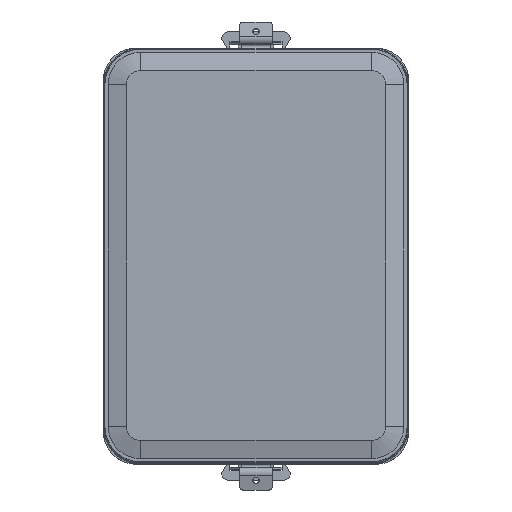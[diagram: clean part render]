
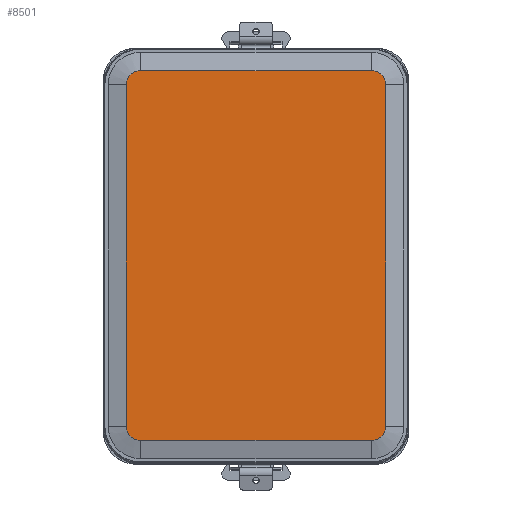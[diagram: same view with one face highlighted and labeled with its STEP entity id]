
A CAD part, top view. The second image highlights one B-rep face of the part: STEP entity #8501.
In plain terms, the highlighted planar face has unit normal (0, 0, 1).
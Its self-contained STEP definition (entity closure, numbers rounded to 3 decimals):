
#8501=ADVANCED_FACE('',(#15929),#15931,.T.);
#15929=FACE_BOUND('',#15930,.T.);
#15930=EDGE_LOOP('',(#28484,#28485,#28486,#28487,#28488,#28489,#28490,#28491));
#15931=PLANE('',#15932);
#15932=AXIS2_PLACEMENT_3D('',#15933,#15934,#15935);
#15933=CARTESIAN_POINT('',(0.,0.,127.5));
#15934=DIRECTION('',(0.,0.,1.));
#15935=DIRECTION('',(1.,0.,0.));
#28484=ORIENTED_EDGE('',*,*,#30884,.T.);
#28485=ORIENTED_EDGE('',*,*,#30882,.T.);
#28486=ORIENTED_EDGE('',*,*,#30880,.T.);
#28487=ORIENTED_EDGE('',*,*,#30878,.T.);
#28488=ORIENTED_EDGE('',*,*,#30876,.T.);
#28489=ORIENTED_EDGE('',*,*,#30874,.T.);
#28490=ORIENTED_EDGE('',*,*,#30872,.T.);
#28491=ORIENTED_EDGE('',*,*,#30869,.T.);
#30869=EDGE_CURVE('',#34674,#34675,#34676,.F.);
#30872=EDGE_CURVE('',#34679,#34674,#34680,.T.);
#30874=EDGE_CURVE('',#34682,#34679,#34683,.F.);
#30876=EDGE_CURVE('',#34685,#34682,#34686,.T.);
#30878=EDGE_CURVE('',#34688,#34685,#34689,.F.);
#30880=EDGE_CURVE('',#34691,#34688,#34692,.T.);
#30882=EDGE_CURVE('',#34694,#34691,#34695,.F.);
#30884=EDGE_CURVE('',#34675,#34694,#34697,.T.);
#34674=VERTEX_POINT('',#44370);
#34675=VERTEX_POINT('',#44371);
#34676=LINE('',#44372,#44373);
#34679=VERTEX_POINT('',#44381);
#34680=CIRCLE('',#44382,4.402);
#34682=VERTEX_POINT('',#44389);
#34683=LINE('',#44390,#44391);
#34685=VERTEX_POINT('',#44396);
#34686=CIRCLE('',#44397,4.402);
#34688=VERTEX_POINT('',#44404);
#34689=LINE('',#44405,#44406);
#34691=VERTEX_POINT('',#44411);
#34692=CIRCLE('',#44412,4.402);
#34694=VERTEX_POINT('',#44419);
#34695=LINE('',#44420,#44421);
#34697=CIRCLE('',#44426,4.402);
#44370=CARTESIAN_POINT('',(-35.5,-56.902,127.5));
#44371=CARTESIAN_POINT('',(35.5,-56.902,127.5));
#44372=CARTESIAN_POINT('',(35.5,-56.902,127.5));
#44373=VECTOR('',#44374,1.);
#44374=DIRECTION('',(-1.,0.,0.));
#44381=CARTESIAN_POINT('',(-39.902,-52.5,127.5));
#44382=AXIS2_PLACEMENT_3D('',#44383,#44384,#44385);
#44383=CARTESIAN_POINT('',(-35.5,-52.5,127.5));
#44384=DIRECTION('',(0.,-0.,1.));
#44385=DIRECTION('',(-1.,0.,0.));
#44389=CARTESIAN_POINT('',(-39.902,52.5,127.5));
#44390=CARTESIAN_POINT('',(-39.902,-52.5,127.5));
#44391=VECTOR('',#44392,1.);
#44392=DIRECTION('',(0.,1.,0.));
#44396=CARTESIAN_POINT('',(-35.5,56.902,127.5));
#44397=AXIS2_PLACEMENT_3D('',#44398,#44399,#44400);
#44398=CARTESIAN_POINT('',(-35.5,52.5,127.5));
#44399=DIRECTION('',(0.,-0.,1.));
#44400=DIRECTION('',(0.,1.,0.));
#44404=CARTESIAN_POINT('',(35.5,56.902,127.5));
#44405=CARTESIAN_POINT('',(-35.5,56.902,127.5));
#44406=VECTOR('',#44407,1.);
#44407=DIRECTION('',(1.,0.,0.));
#44411=CARTESIAN_POINT('',(39.902,52.5,127.5));
#44412=AXIS2_PLACEMENT_3D('',#44413,#44414,#44415);
#44413=CARTESIAN_POINT('',(35.5,52.5,127.5));
#44414=DIRECTION('',(-0.,0.,1.));
#44415=DIRECTION('',(1.,0.,0.));
#44419=CARTESIAN_POINT('',(39.902,-52.5,127.5));
#44420=CARTESIAN_POINT('',(39.902,52.5,127.5));
#44421=VECTOR('',#44422,1.);
#44422=DIRECTION('',(0.,-1.,0.));
#44426=AXIS2_PLACEMENT_3D('',#44427,#44428,#44429);
#44427=CARTESIAN_POINT('',(35.5,-52.5,127.5));
#44428=DIRECTION('',(-0.,0.,1.));
#44429=DIRECTION('',(0.,-1.,0.));
